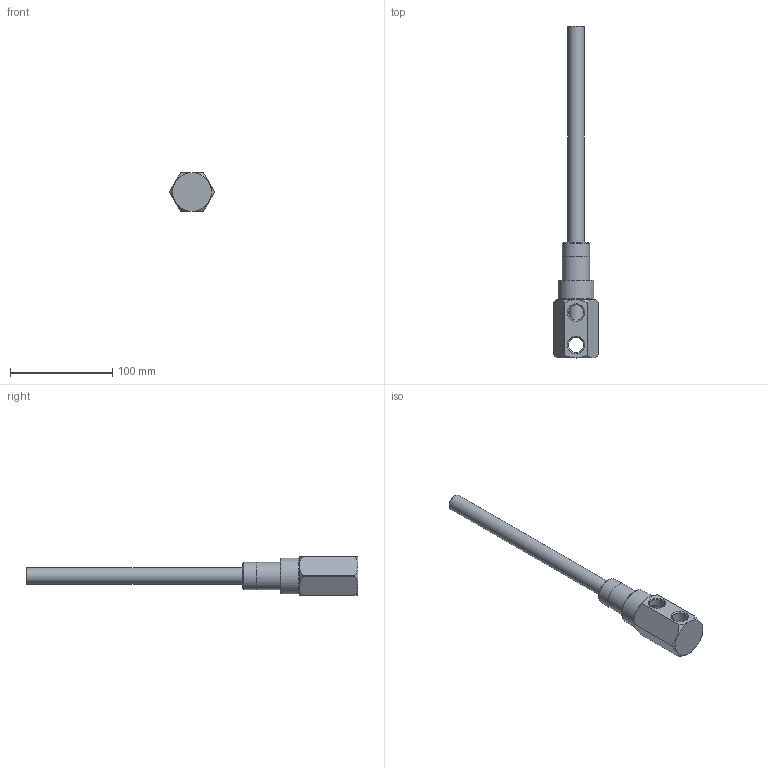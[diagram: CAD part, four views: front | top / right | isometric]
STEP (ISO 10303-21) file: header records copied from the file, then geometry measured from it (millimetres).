
FILE_DESCRIPTION(/* description */ (''),/* implementation_level */ '2;1');
FILE_NAME(/* name */ 'C:/Users/drich/Desktop/341N-6 v1.step',/* time_stamp */ '2020-01-15T19:40:58-06:00',/* author */ (''),/* organization */ (''),/* preprocessor_version */ 'ST-DEVELOPER v18',/* originating_system */ 'Autodesk Translation Framework v8.12.0.6',/* authorisation */ '');
FILE_SCHEMA (('AUTOMOTIVE_DESIGN { 1 0 10303 214 3 1 1 }'));
Length unit declared in the file: inch
Products named in the file (4): 341N-6; 341H-4; SSPN34-2; 625T-12
Assembly tree (3 placements, depth 2):
  341N-6
    341H-4
    SSPN34-2
    625T-12
Bounding box: 43.99 x 325.12 x 38.1 mm (x, y, z)
Volume: 91219.3 mm3; surface area: 51794.5 mm2
Topology: 3 solids, 3 shells, 58 faces, 147 edges, 97 vertices
Faces by surface type: cone 23, cylinder 18, plane 15, torus 2
Full cylindrical faces by diameter (mm): 12.573 x1, 14.516 x1, 15.173 x3, 15.73 x1, 20.93 x1, 24.387 x1, 26.619 x2, 26.67 x1, 34.9 x1
Entity records: 2003 total; most frequent: CARTESIAN_POINT 468, DIRECTION 325, ORIENTED_EDGE 294, EDGE_CURVE 147, AXIS2_PLACEMENT_3D 146, VERTEX_POINT 97, CIRCLE 81, EDGE_LOOP 70
